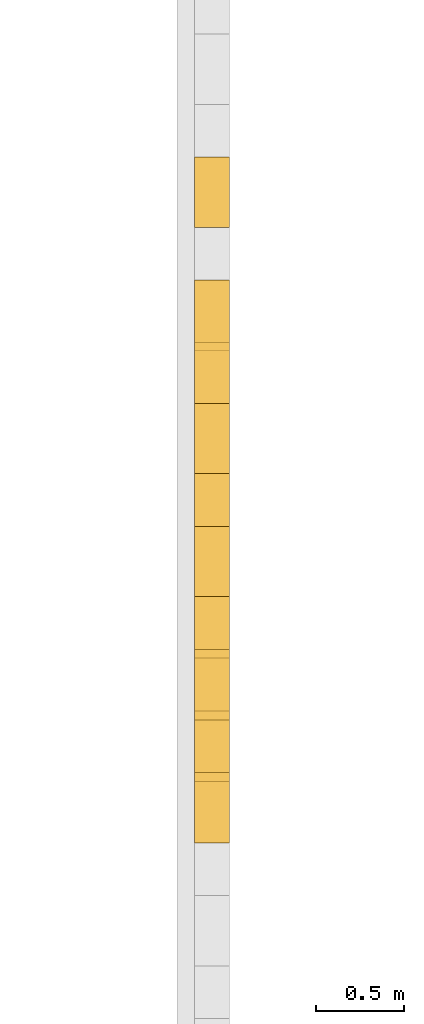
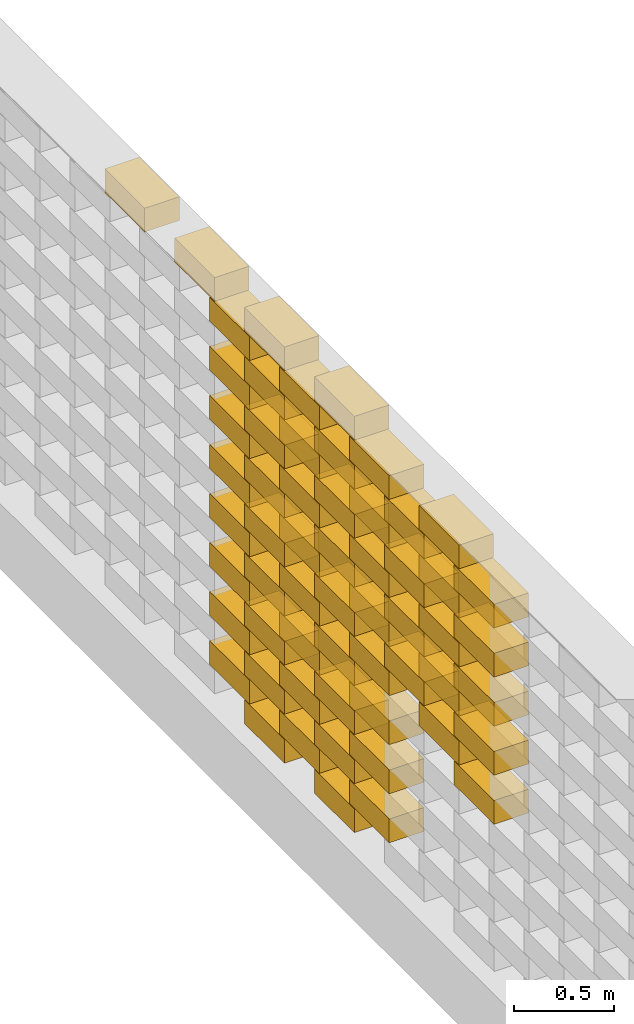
# One storey, part 43 of 62: 68 railings.
"""IFC2X3 building model written with IfcOpenShell, lengths in millimetres."""

from ifc_helpers import new_model, entity, si_unit, converted_unit, derived_unit, money_unit, direction, frame, origin_with_axes, place, context, subcontext, project, spatial, polyline, outline, extrude, material, type_object, element, save


model = new_model("IFC2X3")

# Units and contexts
model_context = context("Model", 3, precision=0.01, world=origin_with_axes(), true_north=direction((0.0, 1.0)))
body_context = subcontext(model_context, "Body", "Model", "MODEL_VIEW")
ifc_project = project(units=[si_unit("LENGTHUNIT", "METRE", prefix="MILLI"), si_unit("AREAUNIT", "SQUARE_METRE"), si_unit("VOLUMEUNIT", "CUBIC_METRE"), converted_unit("PLANEANGLEUNIT", "DEGREE", entity("IfcPlaneAngleMeasure", 0.0174532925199), si_unit("PLANEANGLEUNIT", "RADIAN"), dimensions=[0, 0, 0, 0, 0, 0, 0]), si_unit("SOLIDANGLEUNIT", "STERADIAN"), money_unit("EUR"), converted_unit("TIMEUNIT", "Year", entity("IfcTimeMeasure", 31556926.0), si_unit("TIMEUNIT", "SECOND"), dimensions=[0, 0, 1, 0, 0, 0, 0]), si_unit("MASSUNIT", "GRAM", prefix="KILO"), si_unit("THERMODYNAMICTEMPERATUREUNIT", "DEGREE_CELSIUS"), si_unit("LUMINOUSINTENSITYUNIT", "LUMEN"), si_unit("ENERGYUNIT", "JOULE", prefix="MEGA"), derived_unit("THERMALCONDUCTANCEUNIT", [(si_unit("POWERUNIT", "WATT"), 1), (si_unit("LENGTHUNIT", "METRE"), -1), (si_unit("THERMODYNAMICTEMPERATUREUNIT", "KELVIN"), -1)]), derived_unit("SPECIFICHEATCAPACITYUNIT", [(si_unit("ENERGYUNIT", "JOULE"), 1), (si_unit("MASSUNIT", "GRAM", prefix="KILO"), -1), (si_unit("THERMODYNAMICTEMPERATUREUNIT", "KELVIN"), -1)]), derived_unit("MASSDENSITYUNIT", [(si_unit("MASSUNIT", "GRAM", prefix="KILO"), 1), (si_unit("VOLUMEUNIT", "CUBIC_METRE"), -1)])], contexts=[model_context])

# Site, building, storey
site_placement = place(None, origin_with_axes())
site = spatial("IfcSite", under=ifc_project, at=site_placement, Name="KIRDE 14, ELVA", CompositionType="ELEMENT")
building_placement = place(site_placement, origin_with_axes())
building = spatial("IfcBuilding", under=site, at=building_placement, Name="PPA ja Päästeameti ühishoone", CompositionType="ELEMENT")
storey_placement = place(building_placement, origin_with_axes())
storey = spatial("IfcBuildingStorey", under=building, at=storey_placement, Name="Esimene korrus", CompositionType="ELEMENT", Elevation=0.0)

# Railings
ifc_material = material(Name="Air Space")
railing_type = type_object("IfcRailingType", Name="Air Space 200", PredefinedType="NOTDEFINED")
railing_1_placement = place(storey_placement, frame((620.000150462, -7623.83984013, 2800.0), z_axis=(0.0, 0.0, 1.0), x_axis=(1.16415321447e-09, -1.0, 0.0)))
element("IfcRailing", 1, at=railing_1_placement, inside=storey, type_object=railing_type, material=ifc_material, Name="plokk", PredefinedType="NOTDEFINED", context=body_context, shape_type="SweptSolid", body=[
    extrude(outline(polyline([(0.0, 0.0), (400.000001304, 0.0), (400.000001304, 200.0), (0.0, 200.0), (0.0, 0.0)])), origin_with_axes(), (0.0, 0.0, 1.0), 145.0),
])
railing_2_placement = place(storey_placement, frame((620.000150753, -9723.83983975, 2800.0), z_axis=(0.0, 0.0, 1.0), x_axis=(7.27595762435e-10, -1.0, 0.0)))
element("IfcRailing", 2, at=railing_2_placement, inside=storey, type_object=railing_type, material=ifc_material, Name="plokk", PredefinedType="NOTDEFINED", context=body_context, shape_type="SweptSolid", body=[
    extrude(outline(polyline([(0.0, 0.0), (399.999999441, 0.0), (399.999999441, 200.0), (0.0, 200.0), (0.0, 0.0)])), origin_with_axes(), (0.0, 0.0, 1.0), 145.0),
])
railing_3_placement = place(storey_placement, frame((620.000151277, -9023.83984143, 2800.0), z_axis=(0.0, 0.0, 1.0), x_axis=(-5.82076611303e-10, -1.0, 0.0)))
element("IfcRailing", 3, at=railing_3_placement, inside=storey, type_object=railing_type, material=ifc_material, Name="plokk", PredefinedType="NOTDEFINED", context=body_context, shape_type="SweptSolid", body=[
    extrude(outline(polyline([(0.0, 0.0), (399.99999851, 0.0), (399.99999851, 200.0), (0.0, 200.0), (0.0, 0.0)])), origin_with_axes(), (0.0, 0.0, 1.0), 145.0),
])
railing_4_placement = place(storey_placement, frame((620.000150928, -8323.83984031, 2800.0), z_axis=(0.0, 0.0, 1.0), x_axis=(0.0, -1.0, 0.0)))
element("IfcRailing", 4, at=railing_4_placement, inside=storey, type_object=railing_type, material=ifc_material, Name="plokk", PredefinedType="NOTDEFINED", context=body_context, shape_type="SweptSolid", body=[
    extrude(outline(polyline([(0.0, 0.0), (399.999999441, 0.0), (399.999999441, 200.0), (0.0, 200.0), (0.0, 0.0)])), origin_with_axes(), (0.0, 0.0, 1.0), 145.0),
])
railing_5_placement = place(storey_placement, frame((620.000151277, -9023.83984143, 400.0), z_axis=(0.0, 0.0, 1.0), x_axis=(-5.82076611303e-10, -1.0, 0.0)))
element("IfcRailing", 5, at=railing_5_placement, inside=storey, type_object=railing_type, material=ifc_material, Name="plokk", PredefinedType="NOTDEFINED", context=body_context, shape_type="SweptSolid", body=[
    extrude(outline(polyline([(0.0, 0.0), (399.99999851, 0.0), (399.99999851, 200.0), (0.0, 200.0), (0.0, 0.0)])), origin_with_axes(), (0.0, 0.0, 1.0), 145.0),
])
railing_6_placement = place(storey_placement, frame((620.000150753, -9723.83983975, 400.0), z_axis=(0.0, 0.0, 1.0), x_axis=(7.27595762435e-10, -1.0, 0.0)))
element("IfcRailing", 6, at=railing_6_placement, inside=storey, type_object=railing_type, material=ifc_material, Name="plokk", PredefinedType="NOTDEFINED", context=body_context, shape_type="SweptSolid", body=[
    extrude(outline(polyline([(0.0, 0.0), (399.999999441, 0.0), (399.999999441, 200.0), (0.0, 200.0), (0.0, 0.0)])), origin_with_axes(), (0.0, 0.0, 1.0), 145.0),
])
railing_7_placement = place(storey_placement, frame((620.00015052, -8673.83984087, 550.0), z_axis=(0.0, 0.0, 1.0), x_axis=(7.27595760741e-10, -1.0, 0.0)))
element("IfcRailing", 7, at=railing_7_placement, inside=storey, type_object=railing_type, material=ifc_material, Name="plokk", PredefinedType="NOTDEFINED", context=body_context, shape_type="SweptSolid", body=[
    extrude(outline(polyline([(0.0, 0.0), (400.000000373, 0.0), (400.000000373, 200.0), (0.0, 200.0), (0.0, 0.0)])), origin_with_axes(), (0.0, 0.0, 1.0), 145.0),
])
railing_8_placement = place(storey_placement, frame((620.000151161, -9373.83983919, 550.0), z_axis=(0.0, 0.0, 1.0), x_axis=(1.45519151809e-09, -1.0, 0.0)))
element("IfcRailing", 8, at=railing_8_placement, inside=storey, type_object=railing_type, material=ifc_material, Name="plokk", PredefinedType="NOTDEFINED", context=body_context, shape_type="SweptSolid", body=[
    extrude(outline(polyline([(0.0, 0.0), (400.000001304, 0.0), (400.000001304, 200.0), (0.0, 200.0), (0.0, 0.0)])), origin_with_axes(), (0.0, 0.0, 1.0), 145.0),
])
railing_9_placement = place(storey_placement, frame((620.000150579, -10073.8398403, 550.0), z_axis=(0.0, 0.0, 1.0), x_axis=(1.89174898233e-09, -1.0, 0.0)))
element("IfcRailing", 9, at=railing_9_placement, inside=storey, type_object=railing_type, material=ifc_material, Name="plokk", PredefinedType="NOTDEFINED", context=body_context, shape_type="SweptSolid", body=[
    extrude(outline(polyline([(0.0, 0.0), (399.999999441, 0.0), (399.999999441, 200.0), (0.0, 200.0), (0.0, 0.0)])), origin_with_axes(), (0.0, 0.0, 1.0), 145.0),
])
railing_10_placement = place(storey_placement, frame((620.000151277, -9023.83984143, 700.0), z_axis=(0.0, 0.0, 1.0), x_axis=(-5.82076611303e-10, -1.0, 0.0)))
element("IfcRailing", 10, at=railing_10_placement, inside=storey, type_object=railing_type, material=ifc_material, Name="plokk", PredefinedType="NOTDEFINED", context=body_context, shape_type="SweptSolid", body=[
    extrude(outline(polyline([(0.0, 0.0), (399.99999851, 0.0), (399.99999851, 200.0), (0.0, 200.0), (0.0, 0.0)])), origin_with_axes(), (0.0, 0.0, 1.0), 145.0),
])
railing_11_placement = place(storey_placement, frame((620.000150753, -9723.83983975, 700.0), z_axis=(0.0, 0.0, 1.0), x_axis=(7.27595762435e-10, -1.0, 0.0)))
element("IfcRailing", 11, at=railing_11_placement, inside=storey, type_object=railing_type, material=ifc_material, Name="plokk", PredefinedType="NOTDEFINED", context=body_context, shape_type="SweptSolid", body=[
    extrude(outline(polyline([(0.0, 0.0), (399.999999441, 0.0), (399.999999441, 200.0), (0.0, 200.0), (0.0, 0.0)])), origin_with_axes(), (0.0, 0.0, 1.0), 145.0),
])
railing_12_placement = place(storey_placement, frame((620.00015052, -8673.83984087, 850.0), z_axis=(0.0, 0.0, 1.0), x_axis=(7.27595760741e-10, -1.0, 0.0)))
element("IfcRailing", 12, at=railing_12_placement, inside=storey, type_object=railing_type, material=ifc_material, Name="plokk", PredefinedType="NOTDEFINED", context=body_context, shape_type="SweptSolid", body=[
    extrude(outline(polyline([(0.0, 0.0), (400.000000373, 0.0), (400.000000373, 200.0), (0.0, 200.0), (0.0, 0.0)])), origin_with_axes(), (0.0, 0.0, 1.0), 145.0),
])
railing_13_placement = place(storey_placement, frame((620.000151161, -9373.83983919, 850.0), z_axis=(0.0, 0.0, 1.0), x_axis=(1.45519151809e-09, -1.0, 0.0)))
element("IfcRailing", 13, at=railing_13_placement, inside=storey, type_object=railing_type, material=ifc_material, Name="plokk", PredefinedType="NOTDEFINED", context=body_context, shape_type="SweptSolid", body=[
    extrude(outline(polyline([(0.0, 0.0), (400.000001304, 0.0), (400.000001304, 200.0), (0.0, 200.0), (0.0, 0.0)])), origin_with_axes(), (0.0, 0.0, 1.0), 145.0),
])
railing_14_placement = place(storey_placement, frame((620.000150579, -10073.8398403, 850.0), z_axis=(0.0, 0.0, 1.0), x_axis=(1.89174898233e-09, -1.0, 0.0)))
element("IfcRailing", 14, at=railing_14_placement, inside=storey, type_object=railing_type, material=ifc_material, Name="plokk", PredefinedType="NOTDEFINED", context=body_context, shape_type="SweptSolid", body=[
    extrude(outline(polyline([(0.0, 0.0), (399.999999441, 0.0), (399.999999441, 200.0), (0.0, 200.0), (0.0, 0.0)])), origin_with_axes(), (0.0, 0.0, 1.0), 145.0),
])
railing_15_placement = place(storey_placement, frame((620.000151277, -9023.83984143, 1000.0), z_axis=(0.0, 0.0, 1.0), x_axis=(-5.82076611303e-10, -1.0, 0.0)))
element("IfcRailing", 15, at=railing_15_placement, inside=storey, type_object=railing_type, material=ifc_material, Name="plokk", PredefinedType="NOTDEFINED", context=body_context, shape_type="SweptSolid", body=[
    extrude(outline(polyline([(0.0, 0.0), (399.99999851, 0.0), (399.99999851, 200.0), (0.0, 200.0), (0.0, 0.0)])), origin_with_axes(), (0.0, 0.0, 1.0), 145.0),
])
railing_16_placement = place(storey_placement, frame((620.000150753, -9723.83983975, 1000.0), z_axis=(0.0, 0.0, 1.0), x_axis=(7.27595762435e-10, -1.0, 0.0)))
element("IfcRailing", 16, at=railing_16_placement, inside=storey, type_object=railing_type, material=ifc_material, Name="plokk", PredefinedType="NOTDEFINED", context=body_context, shape_type="SweptSolid", body=[
    extrude(outline(polyline([(0.0, 0.0), (399.999999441, 0.0), (399.999999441, 200.0), (0.0, 200.0), (0.0, 0.0)])), origin_with_axes(), (0.0, 0.0, 1.0), 145.0),
])
railing_17_placement = place(storey_placement, frame((620.000151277, -9023.83984143, 1000.0), z_axis=(0.0, 0.0, 1.0), x_axis=(-5.82076611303e-10, -1.0, 0.0)))
element("IfcRailing", 17, at=railing_17_placement, inside=storey, type_object=railing_type, material=ifc_material, Name="plokk", PredefinedType="NOTDEFINED", context=body_context, shape_type="SweptSolid", body=[
    extrude(outline(polyline([(0.0, 0.0), (399.99999851, 0.0), (399.99999851, 200.0), (0.0, 200.0), (0.0, 0.0)])), origin_with_axes(), (0.0, 0.0, 1.0), 145.0),
])
railing_18_placement = place(storey_placement, frame((620.000150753, -9723.83983975, 1000.0), z_axis=(0.0, 0.0, 1.0), x_axis=(7.27595762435e-10, -1.0, 0.0)))
element("IfcRailing", 18, at=railing_18_placement, inside=storey, type_object=railing_type, material=ifc_material, Name="plokk", PredefinedType="NOTDEFINED", context=body_context, shape_type="SweptSolid", body=[
    extrude(outline(polyline([(0.0, 0.0), (399.999999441, 0.0), (399.999999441, 200.0), (0.0, 200.0), (0.0, 0.0)])), origin_with_axes(), (0.0, 0.0, 1.0), 145.0),
])
railing_19_placement = place(storey_placement, frame((620.00015052, -8673.83984087, 1150.0), z_axis=(0.0, 0.0, 1.0), x_axis=(7.27595760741e-10, -1.0, 0.0)))
element("IfcRailing", 19, at=railing_19_placement, inside=storey, type_object=railing_type, material=ifc_material, Name="plokk", PredefinedType="NOTDEFINED", context=body_context, shape_type="SweptSolid", body=[
    extrude(outline(polyline([(0.0, 0.0), (400.000000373, 0.0), (400.000000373, 200.0), (0.0, 200.0), (0.0, 0.0)])), origin_with_axes(), (0.0, 0.0, 1.0), 145.0),
])
railing_20_placement = place(storey_placement, frame((620.000151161, -9373.83983919, 1150.0), z_axis=(0.0, 0.0, 1.0), x_axis=(1.45519151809e-09, -1.0, 0.0)))
element("IfcRailing", 20, at=railing_20_placement, inside=storey, type_object=railing_type, material=ifc_material, Name="plokk", PredefinedType="NOTDEFINED", context=body_context, shape_type="SweptSolid", body=[
    extrude(outline(polyline([(0.0, 0.0), (400.000001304, 0.0), (400.000001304, 200.0), (0.0, 200.0), (0.0, 0.0)])), origin_with_axes(), (0.0, 0.0, 1.0), 145.0),
])
railing_21_placement = place(storey_placement, frame((620.000150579, -10073.8398403, 1150.0), z_axis=(0.0, 0.0, 1.0), x_axis=(1.89174898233e-09, -1.0, 0.0)))
element("IfcRailing", 21, at=railing_21_placement, inside=storey, type_object=railing_type, material=ifc_material, Name="plokk", PredefinedType="NOTDEFINED", context=body_context, shape_type="SweptSolid", body=[
    extrude(outline(polyline([(0.0, 0.0), (399.999999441, 0.0), (399.999999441, 200.0), (0.0, 200.0), (0.0, 0.0)])), origin_with_axes(), (0.0, 0.0, 1.0), 145.0),
])
railing_22_placement = place(storey_placement, frame((620.000151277, -9023.83984143, 1300.0), z_axis=(0.0, 0.0, 1.0), x_axis=(-5.82076611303e-10, -1.0, 0.0)))
element("IfcRailing", 22, at=railing_22_placement, inside=storey, type_object=railing_type, material=ifc_material, Name="plokk", PredefinedType="NOTDEFINED", context=body_context, shape_type="SweptSolid", body=[
    extrude(outline(polyline([(0.0, 0.0), (399.99999851, 0.0), (399.99999851, 200.0), (0.0, 200.0), (0.0, 0.0)])), origin_with_axes(), (0.0, 0.0, 1.0), 145.0),
])
railing_23_placement = place(storey_placement, frame((620.000150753, -9723.83983975, 1300.0), z_axis=(0.0, 0.0, 1.0), x_axis=(7.27595762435e-10, -1.0, 0.0)))
element("IfcRailing", 23, at=railing_23_placement, inside=storey, type_object=railing_type, material=ifc_material, Name="plokk", PredefinedType="NOTDEFINED", context=body_context, shape_type="SweptSolid", body=[
    extrude(outline(polyline([(0.0, 0.0), (399.999999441, 0.0), (399.999999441, 200.0), (0.0, 200.0), (0.0, 0.0)])), origin_with_axes(), (0.0, 0.0, 1.0), 145.0),
])
railing_24_placement = place(storey_placement, frame((620.000151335, -11123.8398401, 1300.0), z_axis=(0.0, 0.0, 1.0), x_axis=(7.27595759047e-10, -1.0, 0.0)))
element("IfcRailing", 24, at=railing_24_placement, inside=storey, type_object=railing_type, material=ifc_material, Name="plokk", PredefinedType="NOTDEFINED", context=body_context, shape_type="SweptSolid", body=[
    extrude(outline(polyline([(0.0, 0.0), (400.000001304, 0.0), (400.000001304, 200.0), (0.0, 200.0), (0.0, 0.0)])), origin_with_axes(), (0.0, 0.0, 1.0), 145.0),
])
railing_25_placement = place(storey_placement, frame((620.00015052, -8673.83984087, 1450.0), z_axis=(0.0, 0.0, 1.0), x_axis=(7.27595760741e-10, -1.0, 0.0)))
element("IfcRailing", 25, at=railing_25_placement, inside=storey, type_object=railing_type, material=ifc_material, Name="plokk", PredefinedType="NOTDEFINED", context=body_context, shape_type="SweptSolid", body=[
    extrude(outline(polyline([(0.0, 0.0), (400.000000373, 0.0), (400.000000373, 200.0), (0.0, 200.0), (0.0, 0.0)])), origin_with_axes(), (0.0, 0.0, 1.0), 145.0),
])
railing_26_placement = place(storey_placement, frame((620.000151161, -9373.83983919, 1450.0), z_axis=(0.0, 0.0, 1.0), x_axis=(1.45519151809e-09, -1.0, 0.0)))
element("IfcRailing", 26, at=railing_26_placement, inside=storey, type_object=railing_type, material=ifc_material, Name="plokk", PredefinedType="NOTDEFINED", context=body_context, shape_type="SweptSolid", body=[
    extrude(outline(polyline([(0.0, 0.0), (400.000001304, 0.0), (400.000001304, 200.0), (0.0, 200.0), (0.0, 0.0)])), origin_with_axes(), (0.0, 0.0, 1.0), 145.0),
])
railing_27_placement = place(storey_placement, frame((620.000150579, -10073.8398403, 1450.0), z_axis=(0.0, 0.0, 1.0), x_axis=(1.89174898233e-09, -1.0, 0.0)))
element("IfcRailing", 27, at=railing_27_placement, inside=storey, type_object=railing_type, material=ifc_material, Name="plokk", PredefinedType="NOTDEFINED", context=body_context, shape_type="SweptSolid", body=[
    extrude(outline(polyline([(0.0, 0.0), (399.999999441, 0.0), (399.999999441, 200.0), (0.0, 200.0), (0.0, 0.0)])), origin_with_axes(), (0.0, 0.0, 1.0), 145.0),
])
railing_28_placement = place(storey_placement, frame((620.000152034, -10773.8398396, 1450.0), z_axis=(0.0, 0.0, 1.0), x_axis=(-4.36557456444e-10, -1.0, 0.0)))
element("IfcRailing", 28, at=railing_28_placement, inside=storey, type_object=railing_type, material=ifc_material, Name="plokk", PredefinedType="NOTDEFINED", context=body_context, shape_type="SweptSolid", body=[
    extrude(outline(polyline([(0.0, 0.0), (400.000000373, 0.0), (400.000000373, 200.0), (0.0, 200.0), (0.0, 0.0)])), origin_with_axes(), (0.0, 0.0, 1.0), 145.0),
])
railing_29_placement = place(storey_placement, frame((620.000151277, -9023.83984143, 1600.0), z_axis=(0.0, 0.0, 1.0), x_axis=(-5.82076611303e-10, -1.0, 0.0)))
element("IfcRailing", 29, at=railing_29_placement, inside=storey, type_object=railing_type, material=ifc_material, Name="plokk", PredefinedType="NOTDEFINED", context=body_context, shape_type="SweptSolid", body=[
    extrude(outline(polyline([(0.0, 0.0), (399.99999851, 0.0), (399.99999851, 200.0), (0.0, 200.0), (0.0, 0.0)])), origin_with_axes(), (0.0, 0.0, 1.0), 145.0),
])
railing_30_placement = place(storey_placement, frame((620.000150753, -9723.83983975, 1600.0), z_axis=(0.0, 0.0, 1.0), x_axis=(7.27595762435e-10, -1.0, 0.0)))
element("IfcRailing", 30, at=railing_30_placement, inside=storey, type_object=railing_type, material=ifc_material, Name="plokk", PredefinedType="NOTDEFINED", context=body_context, shape_type="SweptSolid", body=[
    extrude(outline(polyline([(0.0, 0.0), (399.999999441, 0.0), (399.999999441, 200.0), (0.0, 200.0), (0.0, 0.0)])), origin_with_axes(), (0.0, 0.0, 1.0), 145.0),
])
for number, where, z_axis, x_axis in (
    (31, (620.000151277, -10423.8398399, 1600.0), (0.0, 0.0, 1.0), (8.73114910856e-10, -1.0, 0.0)),
    (32, (620.000151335, -11123.8398401, 1600.0), (0.0, 0.0, 1.0), (7.27595759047e-10, -1.0, 0.0)),
):
    element("IfcRailing", number, at=place(storey_placement, frame(where, z_axis=z_axis, x_axis=x_axis)), inside=storey, type_object=railing_type, material=ifc_material, Name="plokk", PredefinedType="NOTDEFINED", context=body_context, shape_type="SweptSolid", body=[
        extrude(outline(polyline([(0.0, 0.0), (400.000001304, 0.0), (400.000001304, 200.0), (0.0, 200.0), (0.0, 0.0)])), origin_with_axes(), (0.0, 0.0, 1.0), 145.0),
    ])
railing_31_placement = place(storey_placement, frame((620.000151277, -9023.83984143, 1600.0), z_axis=(0.0, 0.0, 1.0), x_axis=(-5.82076611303e-10, -1.0, 0.0)))
element("IfcRailing", 33, at=railing_31_placement, inside=storey, type_object=railing_type, material=ifc_material, Name="plokk", PredefinedType="NOTDEFINED", context=body_context, shape_type="SweptSolid", body=[
    extrude(outline(polyline([(0.0, 0.0), (399.99999851, 0.0), (399.99999851, 200.0), (0.0, 200.0), (0.0, 0.0)])), origin_with_axes(), (0.0, 0.0, 1.0), 145.0),
])
railing_32_placement = place(storey_placement, frame((620.000150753, -9723.83983975, 1600.0), z_axis=(0.0, 0.0, 1.0), x_axis=(7.27595762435e-10, -1.0, 0.0)))
element("IfcRailing", 34, at=railing_32_placement, inside=storey, type_object=railing_type, material=ifc_material, Name="plokk", PredefinedType="NOTDEFINED", context=body_context, shape_type="SweptSolid", body=[
    extrude(outline(polyline([(0.0, 0.0), (399.999999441, 0.0), (399.999999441, 200.0), (0.0, 200.0), (0.0, 0.0)])), origin_with_axes(), (0.0, 0.0, 1.0), 145.0),
])
for number, where, z_axis, x_axis in (
    (35, (620.000151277, -10423.8398399, 1600.0), (0.0, 0.0, 1.0), (8.73114910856e-10, -1.0, 0.0)),
    (36, (620.000151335, -11123.8398401, 1600.0), (0.0, 0.0, 1.0), (7.27595759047e-10, -1.0, 0.0)),
):
    element("IfcRailing", number, at=place(storey_placement, frame(where, z_axis=z_axis, x_axis=x_axis)), inside=storey, type_object=railing_type, material=ifc_material, Name="plokk", PredefinedType="NOTDEFINED", context=body_context, shape_type="SweptSolid", body=[
        extrude(outline(polyline([(0.0, 0.0), (400.000001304, 0.0), (400.000001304, 200.0), (0.0, 200.0), (0.0, 0.0)])), origin_with_axes(), (0.0, 0.0, 1.0), 145.0),
    ])
railing_33_placement = place(storey_placement, frame((620.00015052, -8673.83984087, 1750.0), z_axis=(0.0, 0.0, 1.0), x_axis=(7.27595760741e-10, -1.0, 0.0)))
element("IfcRailing", 37, at=railing_33_placement, inside=storey, type_object=railing_type, material=ifc_material, Name="plokk", PredefinedType="NOTDEFINED", context=body_context, shape_type="SweptSolid", body=[
    extrude(outline(polyline([(0.0, 0.0), (400.000000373, 0.0), (400.000000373, 200.0), (0.0, 200.0), (0.0, 0.0)])), origin_with_axes(), (0.0, 0.0, 1.0), 145.0),
])
railing_34_placement = place(storey_placement, frame((620.000151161, -9373.83983919, 1750.0), z_axis=(0.0, 0.0, 1.0), x_axis=(1.45519151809e-09, -1.0, 0.0)))
element("IfcRailing", 38, at=railing_34_placement, inside=storey, type_object=railing_type, material=ifc_material, Name="plokk", PredefinedType="NOTDEFINED", context=body_context, shape_type="SweptSolid", body=[
    extrude(outline(polyline([(0.0, 0.0), (400.000001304, 0.0), (400.000001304, 200.0), (0.0, 200.0), (0.0, 0.0)])), origin_with_axes(), (0.0, 0.0, 1.0), 145.0),
])
railing_35_placement = place(storey_placement, frame((620.000150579, -10073.8398403, 1750.0), z_axis=(0.0, 0.0, 1.0), x_axis=(1.89174898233e-09, -1.0, 0.0)))
element("IfcRailing", 39, at=railing_35_placement, inside=storey, type_object=railing_type, material=ifc_material, Name="plokk", PredefinedType="NOTDEFINED", context=body_context, shape_type="SweptSolid", body=[
    extrude(outline(polyline([(0.0, 0.0), (399.999999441, 0.0), (399.999999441, 200.0), (0.0, 200.0), (0.0, 0.0)])), origin_with_axes(), (0.0, 0.0, 1.0), 145.0),
])
railing_36_placement = place(storey_placement, frame((620.000152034, -10773.8398396, 1750.0), z_axis=(0.0, 0.0, 1.0), x_axis=(-4.36557456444e-10, -1.0, 0.0)))
element("IfcRailing", 40, at=railing_36_placement, inside=storey, type_object=railing_type, material=ifc_material, Name="plokk", PredefinedType="NOTDEFINED", context=body_context, shape_type="SweptSolid", body=[
    extrude(outline(polyline([(0.0, 0.0), (400.000000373, 0.0), (400.000000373, 200.0), (0.0, 200.0), (0.0, 0.0)])), origin_with_axes(), (0.0, 0.0, 1.0), 145.0),
])
railing_37_placement = place(storey_placement, frame((620.000151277, -9023.83984143, 1900.0), z_axis=(0.0, 0.0, 1.0), x_axis=(-5.82076611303e-10, -1.0, 0.0)))
element("IfcRailing", 41, at=railing_37_placement, inside=storey, type_object=railing_type, material=ifc_material, Name="plokk", PredefinedType="NOTDEFINED", context=body_context, shape_type="SweptSolid", body=[
    extrude(outline(polyline([(0.0, 0.0), (399.99999851, 0.0), (399.99999851, 200.0), (0.0, 200.0), (0.0, 0.0)])), origin_with_axes(), (0.0, 0.0, 1.0), 145.0),
])
railing_38_placement = place(storey_placement, frame((620.000150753, -9723.83983975, 1900.0), z_axis=(0.0, 0.0, 1.0), x_axis=(7.27595762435e-10, -1.0, 0.0)))
element("IfcRailing", 42, at=railing_38_placement, inside=storey, type_object=railing_type, material=ifc_material, Name="plokk", PredefinedType="NOTDEFINED", context=body_context, shape_type="SweptSolid", body=[
    extrude(outline(polyline([(0.0, 0.0), (399.999999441, 0.0), (399.999999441, 200.0), (0.0, 200.0), (0.0, 0.0)])), origin_with_axes(), (0.0, 0.0, 1.0), 145.0),
])
for number, where, z_axis, x_axis in (
    (43, (620.000151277, -10423.8398399, 1900.0), (0.0, 0.0, 1.0), (8.73114910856e-10, -1.0, 0.0)),
    (44, (620.000151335, -11123.8398401, 1900.0), (0.0, 0.0, 1.0), (7.27595759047e-10, -1.0, 0.0)),
):
    element("IfcRailing", number, at=place(storey_placement, frame(where, z_axis=z_axis, x_axis=x_axis)), inside=storey, type_object=railing_type, material=ifc_material, Name="plokk", PredefinedType="NOTDEFINED", context=body_context, shape_type="SweptSolid", body=[
        extrude(outline(polyline([(0.0, 0.0), (400.000001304, 0.0), (400.000001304, 200.0), (0.0, 200.0), (0.0, 0.0)])), origin_with_axes(), (0.0, 0.0, 1.0), 145.0),
    ])
railing_39_placement = place(storey_placement, frame((620.00015052, -8673.83984087, 2050.0), z_axis=(0.0, 0.0, 1.0), x_axis=(7.27595760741e-10, -1.0, 0.0)))
element("IfcRailing", 45, at=railing_39_placement, inside=storey, type_object=railing_type, material=ifc_material, Name="plokk", PredefinedType="NOTDEFINED", context=body_context, shape_type="SweptSolid", body=[
    extrude(outline(polyline([(0.0, 0.0), (400.000000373, 0.0), (400.000000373, 200.0), (0.0, 200.0), (0.0, 0.0)])), origin_with_axes(), (0.0, 0.0, 1.0), 145.0),
])
railing_40_placement = place(storey_placement, frame((620.000151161, -9373.83983919, 2050.0), z_axis=(0.0, 0.0, 1.0), x_axis=(1.45519151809e-09, -1.0, 0.0)))
element("IfcRailing", 46, at=railing_40_placement, inside=storey, type_object=railing_type, material=ifc_material, Name="plokk", PredefinedType="NOTDEFINED", context=body_context, shape_type="SweptSolid", body=[
    extrude(outline(polyline([(0.0, 0.0), (400.000001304, 0.0), (400.000001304, 200.0), (0.0, 200.0), (0.0, 0.0)])), origin_with_axes(), (0.0, 0.0, 1.0), 145.0),
])
railing_41_placement = place(storey_placement, frame((620.000150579, -10073.8398403, 2050.0), z_axis=(0.0, 0.0, 1.0), x_axis=(1.89174898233e-09, -1.0, 0.0)))
element("IfcRailing", 47, at=railing_41_placement, inside=storey, type_object=railing_type, material=ifc_material, Name="plokk", PredefinedType="NOTDEFINED", context=body_context, shape_type="SweptSolid", body=[
    extrude(outline(polyline([(0.0, 0.0), (399.999999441, 0.0), (399.999999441, 200.0), (0.0, 200.0), (0.0, 0.0)])), origin_with_axes(), (0.0, 0.0, 1.0), 145.0),
])
railing_42_placement = place(storey_placement, frame((620.000152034, -10773.8398396, 2050.0), z_axis=(0.0, 0.0, 1.0), x_axis=(-4.36557456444e-10, -1.0, 0.0)))
element("IfcRailing", 48, at=railing_42_placement, inside=storey, type_object=railing_type, material=ifc_material, Name="plokk", PredefinedType="NOTDEFINED", context=body_context, shape_type="SweptSolid", body=[
    extrude(outline(polyline([(0.0, 0.0), (400.000000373, 0.0), (400.000000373, 200.0), (0.0, 200.0), (0.0, 0.0)])), origin_with_axes(), (0.0, 0.0, 1.0), 145.0),
])
railing_43_placement = place(storey_placement, frame((620.000151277, -9023.83984143, 2200.0), z_axis=(0.0, 0.0, 1.0), x_axis=(-5.82076611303e-10, -1.0, 0.0)))
element("IfcRailing", 49, at=railing_43_placement, inside=storey, type_object=railing_type, material=ifc_material, Name="plokk", PredefinedType="NOTDEFINED", context=body_context, shape_type="SweptSolid", body=[
    extrude(outline(polyline([(0.0, 0.0), (399.99999851, 0.0), (399.99999851, 200.0), (0.0, 200.0), (0.0, 0.0)])), origin_with_axes(), (0.0, 0.0, 1.0), 145.0),
])
railing_44_placement = place(storey_placement, frame((620.000150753, -9723.83983975, 2200.0), z_axis=(0.0, 0.0, 1.0), x_axis=(7.27595762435e-10, -1.0, 0.0)))
element("IfcRailing", 50, at=railing_44_placement, inside=storey, type_object=railing_type, material=ifc_material, Name="plokk", PredefinedType="NOTDEFINED", context=body_context, shape_type="SweptSolid", body=[
    extrude(outline(polyline([(0.0, 0.0), (399.999999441, 0.0), (399.999999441, 200.0), (0.0, 200.0), (0.0, 0.0)])), origin_with_axes(), (0.0, 0.0, 1.0), 145.0),
])
for number, where, z_axis, x_axis in (
    (51, (620.000151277, -10423.8398399, 2200.0), (0.0, 0.0, 1.0), (8.73114910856e-10, -1.0, 0.0)),
    (52, (620.000151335, -11123.8398401, 2200.0), (0.0, 0.0, 1.0), (7.27595759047e-10, -1.0, 0.0)),
):
    element("IfcRailing", number, at=place(storey_placement, frame(where, z_axis=z_axis, x_axis=x_axis)), inside=storey, type_object=railing_type, material=ifc_material, Name="plokk", PredefinedType="NOTDEFINED", context=body_context, shape_type="SweptSolid", body=[
        extrude(outline(polyline([(0.0, 0.0), (400.000001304, 0.0), (400.000001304, 200.0), (0.0, 200.0), (0.0, 0.0)])), origin_with_axes(), (0.0, 0.0, 1.0), 145.0),
    ])
railing_45_placement = place(storey_placement, frame((620.000151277, -9023.83984143, 2200.0), z_axis=(0.0, 0.0, 1.0), x_axis=(-5.82076611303e-10, -1.0, 0.0)))
element("IfcRailing", 53, at=railing_45_placement, inside=storey, type_object=railing_type, material=ifc_material, Name="plokk", PredefinedType="NOTDEFINED", context=body_context, shape_type="SweptSolid", body=[
    extrude(outline(polyline([(0.0, 0.0), (399.99999851, 0.0), (399.99999851, 200.0), (0.0, 200.0), (0.0, 0.0)])), origin_with_axes(), (0.0, 0.0, 1.0), 145.0),
])
railing_46_placement = place(storey_placement, frame((620.000150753, -9723.83983975, 2200.0), z_axis=(0.0, 0.0, 1.0), x_axis=(7.27595762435e-10, -1.0, 0.0)))
element("IfcRailing", 54, at=railing_46_placement, inside=storey, type_object=railing_type, material=ifc_material, Name="plokk", PredefinedType="NOTDEFINED", context=body_context, shape_type="SweptSolid", body=[
    extrude(outline(polyline([(0.0, 0.0), (399.999999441, 0.0), (399.999999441, 200.0), (0.0, 200.0), (0.0, 0.0)])), origin_with_axes(), (0.0, 0.0, 1.0), 145.0),
])
for number, where, z_axis, x_axis in (
    (55, (620.000151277, -10423.8398399, 2200.0), (0.0, 0.0, 1.0), (8.73114910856e-10, -1.0, 0.0)),
    (56, (620.000151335, -11123.8398401, 2200.0), (0.0, 0.0, 1.0), (7.27595759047e-10, -1.0, 0.0)),
):
    element("IfcRailing", number, at=place(storey_placement, frame(where, z_axis=z_axis, x_axis=x_axis)), inside=storey, type_object=railing_type, material=ifc_material, Name="plokk", PredefinedType="NOTDEFINED", context=body_context, shape_type="SweptSolid", body=[
        extrude(outline(polyline([(0.0, 0.0), (400.000001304, 0.0), (400.000001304, 200.0), (0.0, 200.0), (0.0, 0.0)])), origin_with_axes(), (0.0, 0.0, 1.0), 145.0),
    ])
railing_47_placement = place(storey_placement, frame((620.00015052, -8673.83984087, 2350.0), z_axis=(0.0, 0.0, 1.0), x_axis=(7.27595760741e-10, -1.0, 0.0)))
element("IfcRailing", 57, at=railing_47_placement, inside=storey, type_object=railing_type, material=ifc_material, Name="plokk", PredefinedType="NOTDEFINED", context=body_context, shape_type="SweptSolid", body=[
    extrude(outline(polyline([(0.0, 0.0), (400.000000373, 0.0), (400.000000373, 200.0), (0.0, 200.0), (0.0, 0.0)])), origin_with_axes(), (0.0, 0.0, 1.0), 145.0),
])
railing_48_placement = place(storey_placement, frame((620.000151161, -9373.83983919, 2350.0), z_axis=(0.0, 0.0, 1.0), x_axis=(1.45519151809e-09, -1.0, 0.0)))
element("IfcRailing", 58, at=railing_48_placement, inside=storey, type_object=railing_type, material=ifc_material, Name="plokk", PredefinedType="NOTDEFINED", context=body_context, shape_type="SweptSolid", body=[
    extrude(outline(polyline([(0.0, 0.0), (400.000001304, 0.0), (400.000001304, 200.0), (0.0, 200.0), (0.0, 0.0)])), origin_with_axes(), (0.0, 0.0, 1.0), 145.0),
])
railing_49_placement = place(storey_placement, frame((620.000150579, -10073.8398403, 2350.0), z_axis=(0.0, 0.0, 1.0), x_axis=(1.89174898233e-09, -1.0, 0.0)))
element("IfcRailing", 59, at=railing_49_placement, inside=storey, type_object=railing_type, material=ifc_material, Name="plokk", PredefinedType="NOTDEFINED", context=body_context, shape_type="SweptSolid", body=[
    extrude(outline(polyline([(0.0, 0.0), (399.999999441, 0.0), (399.999999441, 200.0), (0.0, 200.0), (0.0, 0.0)])), origin_with_axes(), (0.0, 0.0, 1.0), 145.0),
])
railing_50_placement = place(storey_placement, frame((620.000152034, -10773.8398396, 2350.0), z_axis=(0.0, 0.0, 1.0), x_axis=(-4.36557456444e-10, -1.0, 0.0)))
element("IfcRailing", 60, at=railing_50_placement, inside=storey, type_object=railing_type, material=ifc_material, Name="plokk", PredefinedType="NOTDEFINED", context=body_context, shape_type="SweptSolid", body=[
    extrude(outline(polyline([(0.0, 0.0), (400.000000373, 0.0), (400.000000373, 200.0), (0.0, 200.0), (0.0, 0.0)])), origin_with_axes(), (0.0, 0.0, 1.0), 145.0),
])
railing_51_placement = place(storey_placement, frame((620.000151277, -9023.83984143, 2500.0), z_axis=(0.0, 0.0, 1.0), x_axis=(-5.82076611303e-10, -1.0, 0.0)))
element("IfcRailing", 61, at=railing_51_placement, inside=storey, type_object=railing_type, material=ifc_material, Name="plokk", PredefinedType="NOTDEFINED", context=body_context, shape_type="SweptSolid", body=[
    extrude(outline(polyline([(0.0, 0.0), (399.99999851, 0.0), (399.99999851, 200.0), (0.0, 200.0), (0.0, 0.0)])), origin_with_axes(), (0.0, 0.0, 1.0), 145.0),
])
railing_52_placement = place(storey_placement, frame((620.000150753, -9723.83983975, 2500.0), z_axis=(0.0, 0.0, 1.0), x_axis=(7.27595762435e-10, -1.0, 0.0)))
element("IfcRailing", 62, at=railing_52_placement, inside=storey, type_object=railing_type, material=ifc_material, Name="plokk", PredefinedType="NOTDEFINED", context=body_context, shape_type="SweptSolid", body=[
    extrude(outline(polyline([(0.0, 0.0), (399.999999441, 0.0), (399.999999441, 200.0), (0.0, 200.0), (0.0, 0.0)])), origin_with_axes(), (0.0, 0.0, 1.0), 145.0),
])
for number, where, z_axis, x_axis in (
    (63, (620.000151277, -10423.8398399, 2500.0), (0.0, 0.0, 1.0), (8.73114910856e-10, -1.0, 0.0)),
    (64, (620.000151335, -11123.8398401, 2500.0), (0.0, 0.0, 1.0), (7.27595759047e-10, -1.0, 0.0)),
):
    element("IfcRailing", number, at=place(storey_placement, frame(where, z_axis=z_axis, x_axis=x_axis)), inside=storey, type_object=railing_type, material=ifc_material, Name="plokk", PredefinedType="NOTDEFINED", context=body_context, shape_type="SweptSolid", body=[
        extrude(outline(polyline([(0.0, 0.0), (400.000001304, 0.0), (400.000001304, 200.0), (0.0, 200.0), (0.0, 0.0)])), origin_with_axes(), (0.0, 0.0, 1.0), 145.0),
    ])
railing_53_placement = place(storey_placement, frame((620.00015052, -8673.83984087, 2650.0), z_axis=(0.0, 0.0, 1.0), x_axis=(7.27595760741e-10, -1.0, 0.0)))
element("IfcRailing", 65, at=railing_53_placement, inside=storey, type_object=railing_type, material=ifc_material, Name="plokk", PredefinedType="NOTDEFINED", context=body_context, shape_type="SweptSolid", body=[
    extrude(outline(polyline([(0.0, 0.0), (400.000000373, 0.0), (400.000000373, 200.0), (0.0, 200.0), (0.0, 0.0)])), origin_with_axes(), (0.0, 0.0, 1.0), 145.0),
])
railing_54_placement = place(storey_placement, frame((620.000151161, -9373.83983919, 2650.0), z_axis=(0.0, 0.0, 1.0), x_axis=(1.45519151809e-09, -1.0, 0.0)))
element("IfcRailing", 66, at=railing_54_placement, inside=storey, type_object=railing_type, material=ifc_material, Name="plokk", PredefinedType="NOTDEFINED", context=body_context, shape_type="SweptSolid", body=[
    extrude(outline(polyline([(0.0, 0.0), (400.000001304, 0.0), (400.000001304, 200.0), (0.0, 200.0), (0.0, 0.0)])), origin_with_axes(), (0.0, 0.0, 1.0), 145.0),
])
railing_55_placement = place(storey_placement, frame((620.000150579, -10073.8398403, 2650.0), z_axis=(0.0, 0.0, 1.0), x_axis=(1.89174898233e-09, -1.0, 0.0)))
element("IfcRailing", 67, at=railing_55_placement, inside=storey, type_object=railing_type, material=ifc_material, Name="plokk", PredefinedType="NOTDEFINED", context=body_context, shape_type="SweptSolid", body=[
    extrude(outline(polyline([(0.0, 0.0), (399.999999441, 0.0), (399.999999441, 200.0), (0.0, 200.0), (0.0, 0.0)])), origin_with_axes(), (0.0, 0.0, 1.0), 145.0),
])
railing_56_placement = place(storey_placement, frame((620.000152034, -10773.8398396, 2650.0), z_axis=(0.0, 0.0, 1.0), x_axis=(-4.36557456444e-10, -1.0, 0.0)))
element("IfcRailing", 68, at=railing_56_placement, inside=storey, type_object=railing_type, material=ifc_material, Name="plokk", PredefinedType="NOTDEFINED", context=body_context, shape_type="SweptSolid", body=[
    extrude(outline(polyline([(0.0, 0.0), (400.000000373, 0.0), (400.000000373, 200.0), (0.0, 200.0), (0.0, 0.0)])), origin_with_axes(), (0.0, 0.0, 1.0), 145.0),
])

save(model, "model.ifc")
